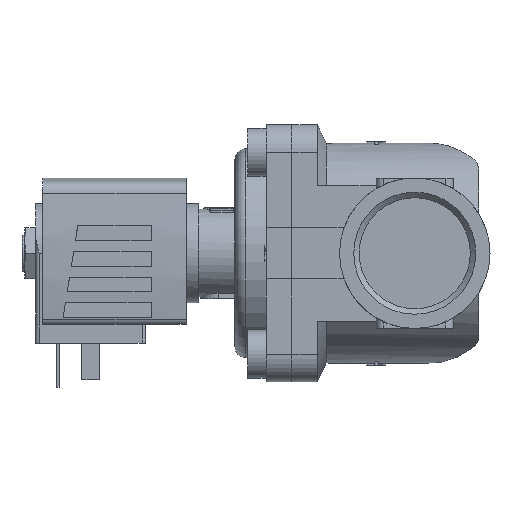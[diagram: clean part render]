
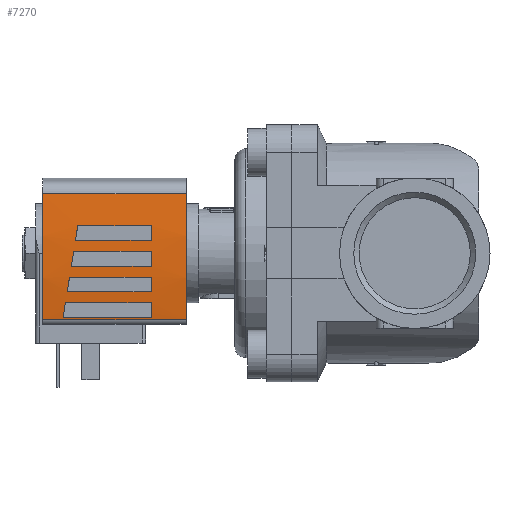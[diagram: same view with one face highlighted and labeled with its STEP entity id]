
A CAD part, left-side view. The second image highlights one B-rep face of the part: STEP entity #7270.
In plain terms, the highlighted cylindrical face has radius 130 mm (diameter 260 mm), a partial arc.
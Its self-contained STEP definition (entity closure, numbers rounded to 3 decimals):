
#155=ELLIPSE('',#7845,131.653,130.);
#156=ELLIPSE('',#7847,131.653,130.);
#157=ELLIPSE('',#7850,131.653,130.);
#158=ELLIPSE('',#7852,131.653,130.);
#238=CYLINDRICAL_SURFACE('',#7844,130.);
#683=LINE('',#11380,#1239);
#685=LINE('',#11400,#1241);
#686=LINE('',#11404,#1242);
#687=LINE('',#11405,#1243);
#688=LINE('',#11410,#1244);
#689=LINE('',#11415,#1245);
#690=LINE('',#11419,#1246);
#691=LINE('',#11423,#1247);
#692=LINE('',#11427,#1248);
#693=LINE('',#11431,#1249);
#1239=VECTOR('',#9328,1000.);
#1241=VECTOR('',#9350,1000.);
#1242=VECTOR('',#9353,1000.);
#1243=VECTOR('',#9354,1000.);
#1244=VECTOR('',#9357,1000.);
#1245=VECTOR('',#9362,1000.);
#1246=VECTOR('',#9365,1000.);
#1247=VECTOR('',#9368,1000.);
#1248=VECTOR('',#9371,1000.);
#1249=VECTOR('',#9374,1000.);
#2731=ORIENTED_EDGE('',*,*,#3822,.F.);
#2732=ORIENTED_EDGE('',*,*,#3823,.F.);
#2733=ORIENTED_EDGE('',*,*,#3824,.F.);
#2734=ORIENTED_EDGE('',*,*,#3825,.F.);
#2735=ORIENTED_EDGE('',*,*,#3826,.F.);
#2736=ORIENTED_EDGE('',*,*,#3827,.F.);
#2737=ORIENTED_EDGE('',*,*,#3828,.F.);
#2738=ORIENTED_EDGE('',*,*,#3829,.F.);
#2739=ORIENTED_EDGE('',*,*,#3830,.T.);
#2740=ORIENTED_EDGE('',*,*,#3831,.F.);
#2741=ORIENTED_EDGE('',*,*,#3816,.F.);
#2742=ORIENTED_EDGE('',*,*,#3813,.T.);
#2743=ORIENTED_EDGE('',*,*,#3832,.F.);
#2744=ORIENTED_EDGE('',*,*,#3833,.F.);
#2745=ORIENTED_EDGE('',*,*,#3834,.F.);
#2746=ORIENTED_EDGE('',*,*,#3835,.F.);
#2747=ORIENTED_EDGE('',*,*,#3836,.F.);
#2748=ORIENTED_EDGE('',*,*,#3837,.F.);
#2749=ORIENTED_EDGE('',*,*,#3838,.F.);
#2750=ORIENTED_EDGE('',*,*,#3839,.F.);
#3813=EDGE_CURVE('',#4471,#4470,#683,.T.);
#3816=EDGE_CURVE('',#4471,#4473,#4757,.T.);
#3822=EDGE_CURVE('',#4477,#4478,#155,.T.);
#3823=EDGE_CURVE('',#4479,#4477,#685,.F.);
#3824=EDGE_CURVE('',#4480,#4479,#4762,.T.);
#3825=EDGE_CURVE('',#4478,#4480,#686,.T.);
#3826=EDGE_CURVE('',#4481,#4482,#687,.T.);
#3827=EDGE_CURVE('',#4483,#4481,#156,.T.);
#3828=EDGE_CURVE('',#4484,#4483,#688,.F.);
#3829=EDGE_CURVE('',#4482,#4484,#4763,.T.);
#3830=EDGE_CURVE('',#4470,#4485,#4764,.T.);
#3831=EDGE_CURVE('',#4473,#4485,#689,.T.);
#3832=EDGE_CURVE('',#4486,#4487,#157,.T.);
#3833=EDGE_CURVE('',#4488,#4486,#690,.F.);
#3834=EDGE_CURVE('',#4489,#4488,#4765,.T.);
#3835=EDGE_CURVE('',#4487,#4489,#691,.T.);
#3836=EDGE_CURVE('',#4490,#4491,#158,.T.);
#3837=EDGE_CURVE('',#4492,#4490,#692,.F.);
#3838=EDGE_CURVE('',#4493,#4492,#4766,.T.);
#3839=EDGE_CURVE('',#4491,#4493,#693,.T.);
#4470=VERTEX_POINT('',#11379);
#4471=VERTEX_POINT('',#11381);
#4473=VERTEX_POINT('',#11387);
#4477=VERTEX_POINT('',#11398);
#4478=VERTEX_POINT('',#11399);
#4479=VERTEX_POINT('',#11401);
#4480=VERTEX_POINT('',#11403);
#4481=VERTEX_POINT('',#11406);
#4482=VERTEX_POINT('',#11407);
#4483=VERTEX_POINT('',#11409);
#4484=VERTEX_POINT('',#11411);
#4485=VERTEX_POINT('',#11414);
#4486=VERTEX_POINT('',#11417);
#4487=VERTEX_POINT('',#11418);
#4488=VERTEX_POINT('',#11420);
#4489=VERTEX_POINT('',#11422);
#4490=VERTEX_POINT('',#11425);
#4491=VERTEX_POINT('',#11426);
#4492=VERTEX_POINT('',#11428);
#4493=VERTEX_POINT('',#11430);
#4757=CIRCLE('',#7839,130.);
#4762=CIRCLE('',#7846,130.);
#4763=CIRCLE('',#7848,130.);
#4764=CIRCLE('',#7849,130.);
#4765=CIRCLE('',#7851,130.);
#4766=CIRCLE('',#7853,130.);
#5078=EDGE_LOOP('',(#2731,#2732,#2733,#2734));
#5079=EDGE_LOOP('',(#2735,#2736,#2737,#2738));
#5080=EDGE_LOOP('',(#2739,#2740,#2741,#2742));
#5081=EDGE_LOOP('',(#2743,#2744,#2745,#2746));
#5082=EDGE_LOOP('',(#2747,#2748,#2749,#2750));
#5468=FACE_BOUND('',#5078,.T.);
#5469=FACE_BOUND('',#5079,.T.);
#5470=FACE_BOUND('',#5080,.T.);
#5471=FACE_BOUND('',#5081,.T.);
#5472=FACE_BOUND('',#5082,.T.);
#7270=ADVANCED_FACE('',(#5468,#5469,#5470,#5471,#5472),#238,.T.);
#7839=AXIS2_PLACEMENT_3D('',#11386,#9335,#9336);
#7844=AXIS2_PLACEMENT_3D('',#11396,#9346,#9347);
#7845=AXIS2_PLACEMENT_3D('',#11397,#9348,#9349);
#7846=AXIS2_PLACEMENT_3D('',#11402,#9351,#9352);
#7847=AXIS2_PLACEMENT_3D('',#11408,#9355,#9356);
#7848=AXIS2_PLACEMENT_3D('',#11412,#9358,#9359);
#7849=AXIS2_PLACEMENT_3D('',#11413,#9360,#9361);
#7850=AXIS2_PLACEMENT_3D('',#11416,#9363,#9364);
#7851=AXIS2_PLACEMENT_3D('',#11421,#9366,#9367);
#7852=AXIS2_PLACEMENT_3D('',#11424,#9369,#9370);
#7853=AXIS2_PLACEMENT_3D('',#11429,#9372,#9373);
#9328=DIRECTION('',(0.,-1.,0.));
#9335=DIRECTION('',(0.,1.,0.));
#9336=DIRECTION('',(1.,0.,0.));
#9346=DIRECTION('',(0.,-1.,0.));
#9347=DIRECTION('',(0.,0.,-1.));
#9348=DIRECTION('',(-0.158,-0.987,0.));
#9349=DIRECTION('',(0.987,-0.158,0.));
#9350=DIRECTION('',(0.,-1.,0.));
#9351=DIRECTION('',(0.,1.,0.));
#9352=DIRECTION('',(0.,0.,1.));
#9353=DIRECTION('',(0.,-1.,0.));
#9354=DIRECTION('',(0.,-1.,0.));
#9355=DIRECTION('',(-0.158,-0.987,0.));
#9356=DIRECTION('',(0.987,-0.158,0.));
#9357=DIRECTION('',(0.,-1.,0.));
#9358=DIRECTION('',(0.,1.,0.));
#9359=DIRECTION('',(0.,0.,1.));
#9360=DIRECTION('',(0.,1.,0.));
#9361=DIRECTION('',(1.,0.,0.));
#9362=DIRECTION('',(0.,-1.,0.));
#9363=DIRECTION('',(-0.158,-0.987,0.));
#9364=DIRECTION('',(0.987,-0.158,0.));
#9365=DIRECTION('',(0.,-1.,0.));
#9366=DIRECTION('',(0.,1.,0.));
#9367=DIRECTION('',(0.,0.,1.));
#9368=DIRECTION('',(0.,-1.,0.));
#9369=DIRECTION('',(-0.158,-0.987,0.));
#9370=DIRECTION('',(0.987,-0.158,0.));
#9371=DIRECTION('',(0.,-1.,0.));
#9372=DIRECTION('',(0.,1.,0.));
#9373=DIRECTION('',(0.,0.,1.));
#9374=DIRECTION('',(0.,-1.,0.));
#11379=CARTESIAN_POINT('',(-18.071,-26.,14.738));
#11380=CARTESIAN_POINT('',(-18.071,13.,14.738));
#11381=CARTESIAN_POINT('',(-18.071,13.,14.738));
#11386=CARTESIAN_POINT('',(0.,13.,-114.));
#11387=CARTESIAN_POINT('',(16.195,13.,14.987));
#11396=CARTESIAN_POINT('',(0.,13.,-114.));
#11397=CARTESIAN_POINT('',(0.,4.7,-114.));
#11398=CARTESIAN_POINT('',(0.5,4.62,15.999));
#11399=CARTESIAN_POINT('',(-3.5,5.26,15.953));
#11400=CARTESIAN_POINT('',(0.5,13.,15.999));
#11401=CARTESIAN_POINT('',(0.5,-16.5,15.999));
#11402=CARTESIAN_POINT('',(0.,-16.5,-114.));
#11403=CARTESIAN_POINT('',(-3.5,-16.5,15.953));
#11404=CARTESIAN_POINT('',(-3.5,13.,15.953));
#11405=CARTESIAN_POINT('',(-17.5,13.,14.817));
#11406=CARTESIAN_POINT('',(-17.5,7.5,14.817));
#11407=CARTESIAN_POINT('',(-17.5,-16.5,14.817));
#11408=CARTESIAN_POINT('',(0.,4.7,-114.));
#11409=CARTESIAN_POINT('',(-13.5,6.86,15.297));
#11410=CARTESIAN_POINT('',(-13.5,13.,15.297));
#11411=CARTESIAN_POINT('',(-13.5,-16.5,15.297));
#11412=CARTESIAN_POINT('',(0.,-16.5,-114.));
#11413=CARTESIAN_POINT('',(0.,-26.,-114.));
#11414=CARTESIAN_POINT('',(16.195,-26.,14.987));
#11415=CARTESIAN_POINT('',(16.195,13.,14.987));
#11416=CARTESIAN_POINT('',(0.,4.7,-114.));
#11417=CARTESIAN_POINT('',(-6.5,5.74,15.837));
#11418=CARTESIAN_POINT('',(-10.5,6.38,15.575));
#11419=CARTESIAN_POINT('',(-6.5,13.,15.837));
#11420=CARTESIAN_POINT('',(-6.5,-16.5,15.837));
#11421=CARTESIAN_POINT('',(0.,-16.5,-114.));
#11422=CARTESIAN_POINT('',(-10.5,-16.5,15.575));
#11423=CARTESIAN_POINT('',(-10.5,13.,15.575));
#11424=CARTESIAN_POINT('',(0.,4.7,-114.));
#11425=CARTESIAN_POINT('',(7.5,3.5,15.783));
#11426=CARTESIAN_POINT('',(3.5,4.14,15.953));
#11427=CARTESIAN_POINT('',(7.5,13.,15.783));
#11428=CARTESIAN_POINT('',(7.5,-16.5,15.783));
#11429=CARTESIAN_POINT('',(0.,-16.5,-114.));
#11430=CARTESIAN_POINT('',(3.5,-16.5,15.953));
#11431=CARTESIAN_POINT('',(3.5,13.,15.953));
